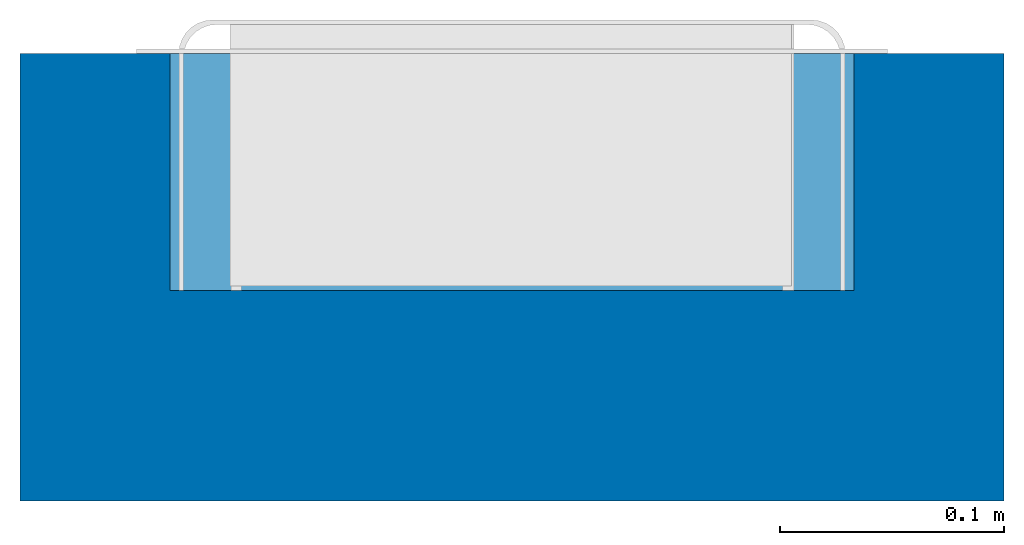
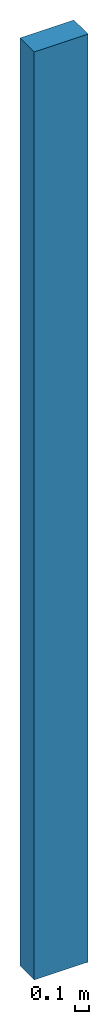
# One storey, part 1 of 2: 1 wall, 1 opening.
"""IFC2X3 building model written with IfcOpenShell, lengths in millimetres."""

from ifc_helpers import new_model, entity, si_unit, converted_unit, derived_unit, direction, frame, frame_2d, origin, place, context, subcontext, project, spatial, rectangle, extrude, material, layer, layer_set, layer_usage, type_object, element, save


model = new_model("IFC2X3")

# Units and contexts
model_context = context("Model", 3, precision=0.01, world=origin(), true_north=direction((6.12303176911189e-17, 1.0)))
context_of_model = context(None, 3, precision=0.01, world=origin(), true_north=direction((6.12303176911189e-17, 1.0)))
body_context = subcontext(model_context, "Body", "Model", "MODEL_VIEW")
ifc_project = project(units=[si_unit("LENGTHUNIT", "METRE", prefix="MILLI"), si_unit("AREAUNIT", "SQUARE_METRE"), si_unit("VOLUMEUNIT", "CUBIC_METRE"), converted_unit("PLANEANGLEUNIT", "DEGREE", entity("IfcRatioMeasure", 0.0174532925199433), si_unit("PLANEANGLEUNIT", "RADIAN"), dimensions=[0, 0, 0, 0, 0, 0, 0]), si_unit("MASSUNIT", "GRAM", prefix="KILO"), si_unit("TIMEUNIT", "SECOND"), si_unit("FREQUENCYUNIT", "HERTZ"), si_unit("THERMODYNAMICTEMPERATUREUNIT", "DEGREE_CELSIUS"), derived_unit("THERMALTRANSMITTANCEUNIT", [(si_unit("MASSUNIT", "GRAM", prefix="KILO"), 1), (si_unit("THERMODYNAMICTEMPERATUREUNIT", "KELVIN"), -1), (si_unit("TIMEUNIT", "SECOND"), -3)]), derived_unit("VOLUMETRICFLOWRATEUNIT", [(si_unit("LENGTHUNIT", "METRE"), 3), (si_unit("TIMEUNIT", "SECOND"), -1)]), si_unit("ELECTRICCURRENTUNIT", "AMPERE"), si_unit("ELECTRICVOLTAGEUNIT", "VOLT"), si_unit("POWERUNIT", "WATT"), si_unit("FORCEUNIT", "NEWTON", prefix="KILO"), si_unit("ILLUMINANCEUNIT", "LUX"), si_unit("LUMINOUSFLUXUNIT", "LUMEN"), si_unit("LUMINOUSINTENSITYUNIT", "CANDELA"), si_unit("PRESSUREUNIT", "PASCAL")], contexts=[model_context, context_of_model])

# Site, building, storey
site_placement = place(None, origin())
site = spatial("IfcSite", under=ifc_project, at=site_placement, Name="Default", CompositionType="ELEMENT")
building_placement = place(site_placement, origin())
building = spatial("IfcBuilding", under=site, at=building_placement, CompositionType="ELEMENT")
storey_placement = place(building_placement, origin())
storey = spatial("IfcBuildingStorey", under=building, at=storey_placement, Name="Level 1", CompositionType="ELEMENT", Elevation=0.0)

# Wall, opening
ifc_material = material(Name="Default Wall")
ifc_layer = layer(ifc_material, 200.0)
ifc_layer_set = layer_set([ifc_layer], Name="Basic Wall:Generic - 200mm")
ifc_layer_usage = layer_usage(ifc_layer_set, "AXIS2", "NEGATIVE", 100.0)
wall_type = type_object("IfcWallType", Name="Basic Wall:Generic - 200mm", PredefinedType="STANDARD", material=ifc_layer_set)
wall_placement = place(storey_placement, frame((-477.892083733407, 67.8381846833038, 0.0)))
wall = element("IfcWallStandardCase", 1, at=wall_placement, inside=storey, type_object=wall_type, material=ifc_layer_usage, Name="Basic Wall:Generic - 200mm", ObjectType="Basic Wall:Generic - 200mm:249", context=body_context, shape_type="SweptSolid", body=[
    extrude(rectangle(XDim=440.0, YDim=200.0, at=frame_2d((220.0, 0.0), x_axis=(-1.0, 0.0))), origin(), (0.0, 0.0, 1.0), 8000.0),
])
opening_placement = place(wall_placement, frame((67.0, -6.0, 1000.0)))
element("IfcOpeningElement", 2, at=opening_placement, cuts=wall, Name="Basic Wall:Generic - 200mm", ObjectType="Recess", context=body_context, shape_type="SweptSolid", body=[
    extrude(rectangle(XDim=1092.0, YDim=306.000000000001, at=frame_2d((0.0, -5.6843418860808e-14), x_axis=(0.0, 1.0))), frame((153.0, 0.0, 546.0), z_axis=(0.0, 1.0, 0.0), x_axis=(-1.0, 0.0, 0.0)), (0.0, 0.0, 1.0), 106.0),
])

save(model, "model.ifc")
